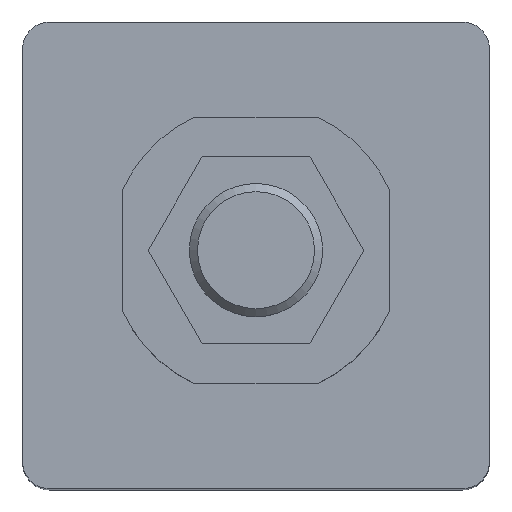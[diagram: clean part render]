
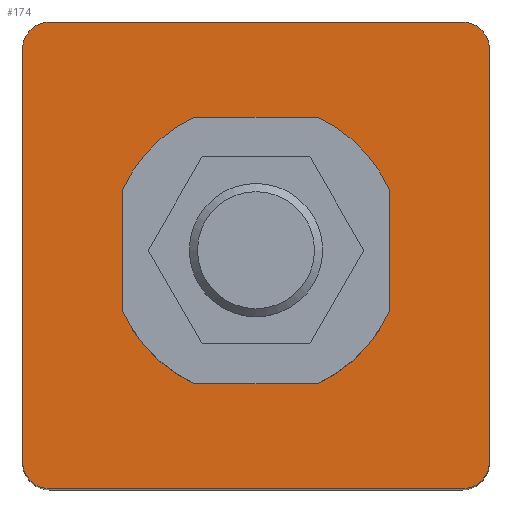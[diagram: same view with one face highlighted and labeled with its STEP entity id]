
A CAD part, top view. The second image highlights one B-rep face of the part: STEP entity #174.
In plain terms, the highlighted planar face has unit normal (0, 0, 1) as drawn and (0, 0, -1) by its records, which use the part's own axes.
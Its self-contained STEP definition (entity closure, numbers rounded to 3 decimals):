
#174 = ADVANCED_FACE( '', ( #395, #396 ), #397, .F. );
#395 = FACE_BOUND( '', #691, .T. );
#396 = FACE_OUTER_BOUND( '', #692, .T. );
#397 = PLANE( '', #693 );
#691 = EDGE_LOOP( '', ( #1038 ) );
#692 = EDGE_LOOP( '', ( #1039, #1040, #1041, #1042, #1043, #1044, #1045, #1046 ) );
#693 = AXIS2_PLACEMENT_3D( '', #1047, #1048, #1049 );
#1038 = ORIENTED_EDGE( '', *, *, #1602, .T. );
#1039 = ORIENTED_EDGE( '', *, *, #1544, .F. );
#1040 = ORIENTED_EDGE( '', *, *, #1603, .F. );
#1041 = ORIENTED_EDGE( '', *, *, #1604, .F. );
#1042 = ORIENTED_EDGE( '', *, *, #1569, .F. );
#1043 = ORIENTED_EDGE( '', *, *, #1559, .F. );
#1044 = ORIENTED_EDGE( '', *, *, #1605, .F. );
#1045 = ORIENTED_EDGE( '', *, *, #1606, .F. );
#1046 = ORIENTED_EDGE( '', *, *, #1573, .F. );
#1047 = CARTESIAN_POINT( '', ( -15.5, 15.5, -57. ) );
#1048 = DIRECTION( '', ( 0., 0., 1. ) );
#1049 = DIRECTION( '', ( 1., 0., 0. ) );
#1544 = EDGE_CURVE( '', #1776, #1778, #1779, .T. );
#1559 = EDGE_CURVE( '', #1804, #1806, #1807, .T. );
#1569 = EDGE_CURVE( '', #1806, #1823, #1824, .T. );
#1573 = EDGE_CURVE( '', #1778, #1829, #1830, .T. );
#1602 = EDGE_CURVE( '', #1876, #1876, #1877, .T. );
#1603 = EDGE_CURVE( '', #1878, #1776, #1879, .T. );
#1604 = EDGE_CURVE( '', #1823, #1878, #1880, .T. );
#1605 = EDGE_CURVE( '', #1881, #1804, #1882, .T. );
#1606 = EDGE_CURVE( '', #1829, #1881, #1883, .T. );
#1776 = VERTEX_POINT( '', #2114 );
#1778 = VERTEX_POINT( '', #2117 );
#1779 = CIRCLE( '', #2118, 2. );
#1804 = VERTEX_POINT( '', #2148 );
#1806 = VERTEX_POINT( '', #2151 );
#1807 = CIRCLE( '', #2152, 2. );
#1823 = VERTEX_POINT( '', #2170 );
#1824 = LINE( '', #2171, #2172 );
#1829 = VERTEX_POINT( '', #2179 );
#1830 = LINE( '', #2180, #2181 );
#1876 = VERTEX_POINT( '', #2237 );
#1877 = CIRCLE( '', #2238, 9. );
#1878 = VERTEX_POINT( '', #2239 );
#1879 = LINE( '', #2240, #2241 );
#1880 = CIRCLE( '', #2242, 2. );
#1881 = VERTEX_POINT( '', #2243 );
#1882 = LINE( '', #2244, #2245 );
#1883 = CIRCLE( '', #2246, 2. );
#2114 = CARTESIAN_POINT( '', ( -15.5, 17.5, -57. ) );
#2117 = CARTESIAN_POINT( '', ( -17.5, 15.5, -57. ) );
#2118 = AXIS2_PLACEMENT_3D( '', #2531, #2532, #2533 );
#2148 = CARTESIAN_POINT( '', ( 15.5, -17.5, -57. ) );
#2151 = CARTESIAN_POINT( '', ( 17.5, -15.5, -57. ) );
#2152 = AXIS2_PLACEMENT_3D( '', #2558, #2559, #2560 );
#2170 = CARTESIAN_POINT( '', ( 17.5, 15.5, -57. ) );
#2171 = CARTESIAN_POINT( '', ( 17.5, -15.5, -57. ) );
#2172 = VECTOR( '', #2578, 1000. );
#2179 = CARTESIAN_POINT( '', ( -17.5, -15.5, -57. ) );
#2180 = CARTESIAN_POINT( '', ( -17.5, 15.5, -57. ) );
#2181 = VECTOR( '', #2581, 1000. );
#2237 = CARTESIAN_POINT( '', ( 9., 0., -57. ) );
#2238 = AXIS2_PLACEMENT_3D( '', #2625, #2626, #2627 );
#2239 = CARTESIAN_POINT( '', ( 15.5, 17.5, -57. ) );
#2240 = CARTESIAN_POINT( '', ( 15.5, 17.5, -57. ) );
#2241 = VECTOR( '', #2628, 1000. );
#2242 = AXIS2_PLACEMENT_3D( '', #2629, #2630, #2631 );
#2243 = CARTESIAN_POINT( '', ( -15.5, -17.5, -57. ) );
#2244 = CARTESIAN_POINT( '', ( -15.5, -17.5, -57. ) );
#2245 = VECTOR( '', #2632, 1000. );
#2246 = AXIS2_PLACEMENT_3D( '', #2633, #2634, #2635 );
#2531 = CARTESIAN_POINT( '', ( -15.5, 15.5, -57. ) );
#2532 = DIRECTION( '', ( 0., 0., 1. ) );
#2533 = DIRECTION( '', ( 1., 0., 0. ) );
#2558 = CARTESIAN_POINT( '', ( 15.5, -15.5, -57. ) );
#2559 = DIRECTION( '', ( 0., 0., 1. ) );
#2560 = DIRECTION( '', ( 1., 0., 0. ) );
#2578 = DIRECTION( '', ( 0., 1., 0. ) );
#2581 = DIRECTION( '', ( 0., -1., 0. ) );
#2625 = CARTESIAN_POINT( '', ( 0., 0., -57. ) );
#2626 = DIRECTION( '', ( 0., 0., 1. ) );
#2627 = DIRECTION( '', ( 1., 0., 0. ) );
#2628 = DIRECTION( '', ( -1., 0., 0. ) );
#2629 = CARTESIAN_POINT( '', ( 15.5, 15.5, -57. ) );
#2630 = DIRECTION( '', ( 0., 0., 1. ) );
#2631 = DIRECTION( '', ( 1., 0., 0. ) );
#2632 = DIRECTION( '', ( 1., 0., 0. ) );
#2633 = CARTESIAN_POINT( '', ( -15.5, -15.5, -57. ) );
#2634 = DIRECTION( '', ( 0., 0., 1. ) );
#2635 = DIRECTION( '', ( 1., 0., 0. ) );
